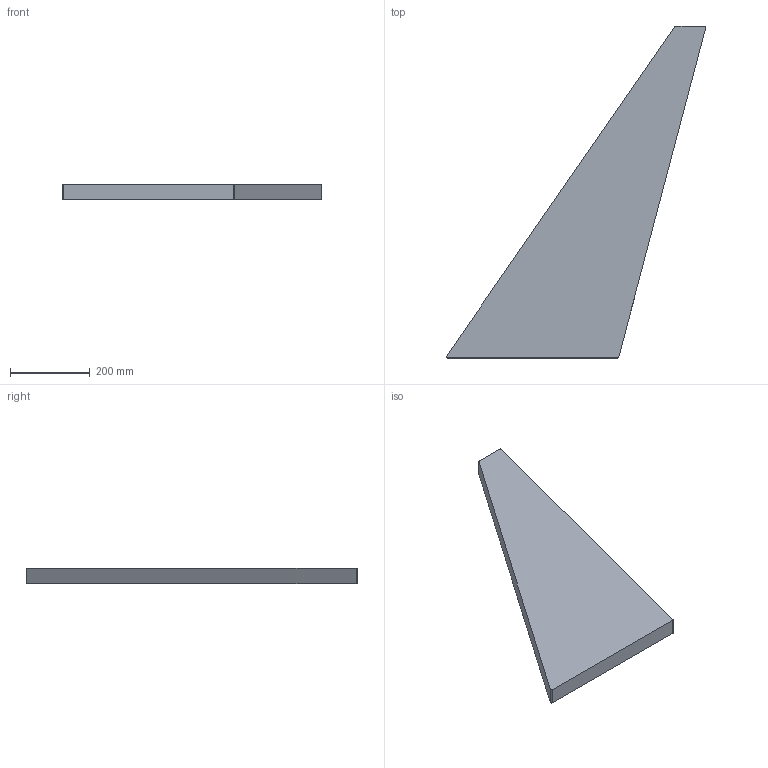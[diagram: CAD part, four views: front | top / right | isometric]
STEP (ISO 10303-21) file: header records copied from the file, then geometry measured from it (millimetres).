
FILE_DESCRIPTION(/* description */ (''),/* implementation_level */ '2;1');
FILE_NAME(/* name */ 'Pos104-Hout D= 40-Hout-3st',/* time_stamp */ '2024-08-06T13:37:43+02:00',/* author */ (''),/* organization */ (''),/* preprocessor_version */ 'ST-DEVELOPER v16.5',/* originating_system */ 'HiCAD 2024 2901.2 Build 361',/* authorisation */ '');
FILE_SCHEMA (('AUTOMOTIVE_DESIGN { 1 0 10303 214 1 1 1 1 }'));
Length unit declared in the file: millimetre
Products named in the file (2): Pos104-Hout D= 40-Hout-3st; Pos0-Antislip-Rubber-0st
Assembly tree (1 placements, depth 2):
  Pos104-Hout D= 40-Hout-3st
    Pos0-Antislip-Rubber-0st
Bounding box: 649.22 x 830 x 40 mm (x, y, z)
Volume: 8481929.8 mm3; surface area: 518947.1 mm2
Topology: 1 solids, 1 shells, 10 faces, 24 edges, 16 vertices
Faces by surface type: plane 6, cylinder 4
Entity records: 580 total; most frequent: DIRECTION 56, CARTESIAN_POINT 52, PRESENTATION_STYLE_ASSIGNMENT 49, COLOUR_RGB 49, DRAUGHTING_PRE_DEFINED_CURVE_FONT 48, CURVE_STYLE 48, OVER_RIDING_STYLED_ITEM 48, ORIENTED_EDGE 48
